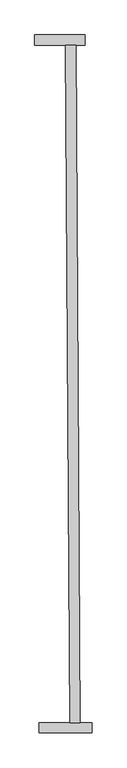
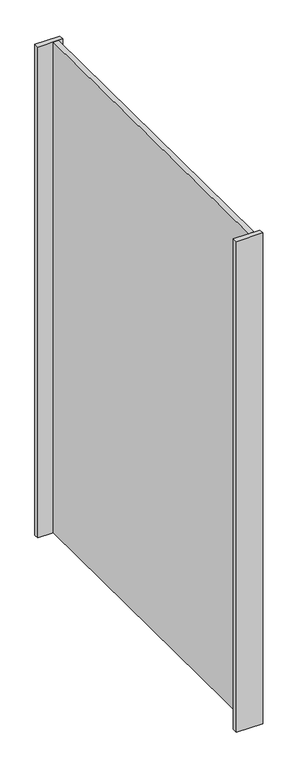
"""IFC4 building model written with IfcOpenShell, lengths in millimetres: proxy geometry, CAIXA JARDIM VERTICAL 1 : CAIXA JARDIM VERTICAL 1."""

from ifc_helpers import new_model, si_unit, origin, origin_with_axes, place, context, project, spatial, polyline, outline, extrude, source, transform, mapped, element, save


def generic_models_93583ba9(model_context):
    return source(origin(), model_context, "Body", "SweptSolid", [
        extrude(outline(polyline([(-4434.8370854, 8035.2417838), (-4464.8370854, 8035.2417838), (-4477.3578762, 10005.2417838), (-4447.3578762, 10005.2417838), (-4434.8370854, 8035.2417838)])), origin_with_axes(), (0.0, 0.0, 1.0), 3050.0),
        extrude(outline(polyline([(-4400.4036831, 8035.2417838), (-4400.4036831, 8005.2417838), (-4554.8370854, 8005.2417838), (-4554.8370854, 8035.2417838), (-4400.4036831, 8035.2417838)])), origin_with_axes(), (0.0, 0.0, 1.0), 3050.0),
        extrude(outline(polyline([(-4420.4036831, 10035.2417838), (-4420.4036831, 10005.2417838), (-4567.3578762, 10005.2417838), (-4567.3578762, 10035.2417838), (-4420.4036831, 10035.2417838)])), origin_with_axes(), (0.0, 0.0, 1.0), 3050.0),
    ])


if __name__ == "__main__":
    model = new_model("IFC4")
    model_context = context("Model", 3, world=origin())
    ifc_project = project(units=[si_unit("LENGTHUNIT", "METRE", prefix="MILLI")], contexts=[model_context])
    site = spatial("IfcSite", under=ifc_project)
    building = spatial("IfcBuilding", under=site)
    placement = place(None, origin())
    generic_models_shape = generic_models_93583ba9(model_context)
    element("IfcBuildingElementProxy", 1, Name="CAIXA JARDIM VERTICAL 1 : CAIXA JARDIM VERTICAL 1", ObjectType="CAIXA JARDIM VERTICAL 1 : CAIXA JARDIM VERTICAL 1", at=placement, inside=building, context=model_context, shape_type="MappedRepresentation", body=[
        mapped(generic_models_shape, transform((0.0, 0.0, 0.0), x_axis=(1.0, 0.0, 0.0), y_axis=(0.0, 1.0, 0.0), z_axis=(0.0, 0.0, 1.0))),
    ])
    save(model, "model.ifc")
